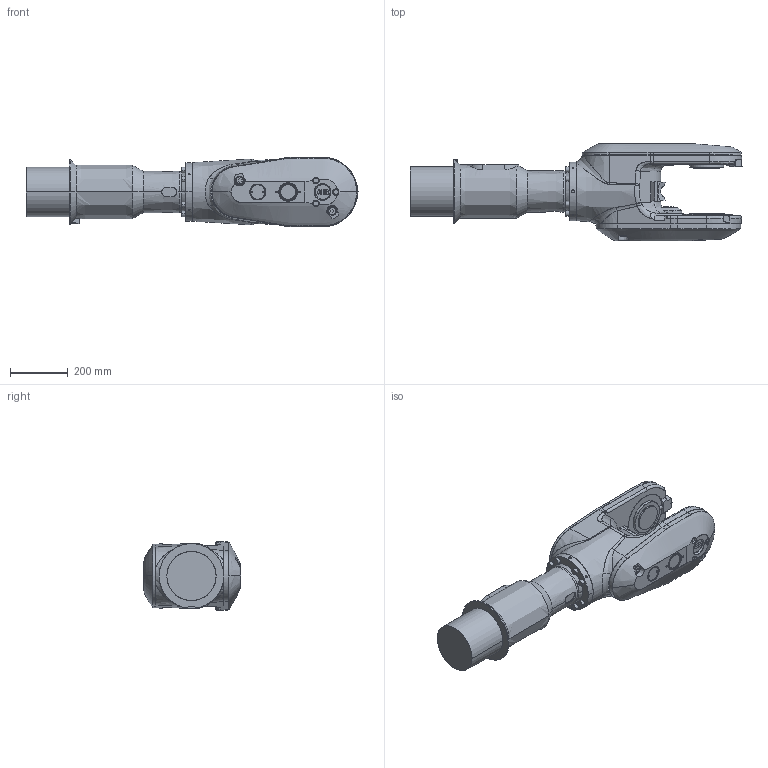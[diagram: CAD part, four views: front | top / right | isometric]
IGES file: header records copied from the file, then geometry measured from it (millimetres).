
Start section: SolidWorks IGES file using analytic representation for surfaces
Global section: file name: C:\Users\SEALDUN\OneDrive - ABB\Documents\R&D Robotics\Work Items\WI 632927\IGES\IRB5710-LID-MH_90kg-230_OC_02_IGES_J\IRB5710-LID_90kg-230_OmniCore_rev00_LINK04_CAD.igs; native system: SolidWorks 2024; preprocessor: SolidWorks 2024; author: SEALDUN; date: 250707.154209; units: millimetre
Bounding box: 1147.6 x 337.5 x 241.31 mm (x, y, z)
Surface area: 1036322.1 mm2 (no closed solid volume)
Topology: 0 solids, 0 shells, 715 faces, 10633 edges, 10617 vertices
Faces by surface type: bspline 444, revolution 271
